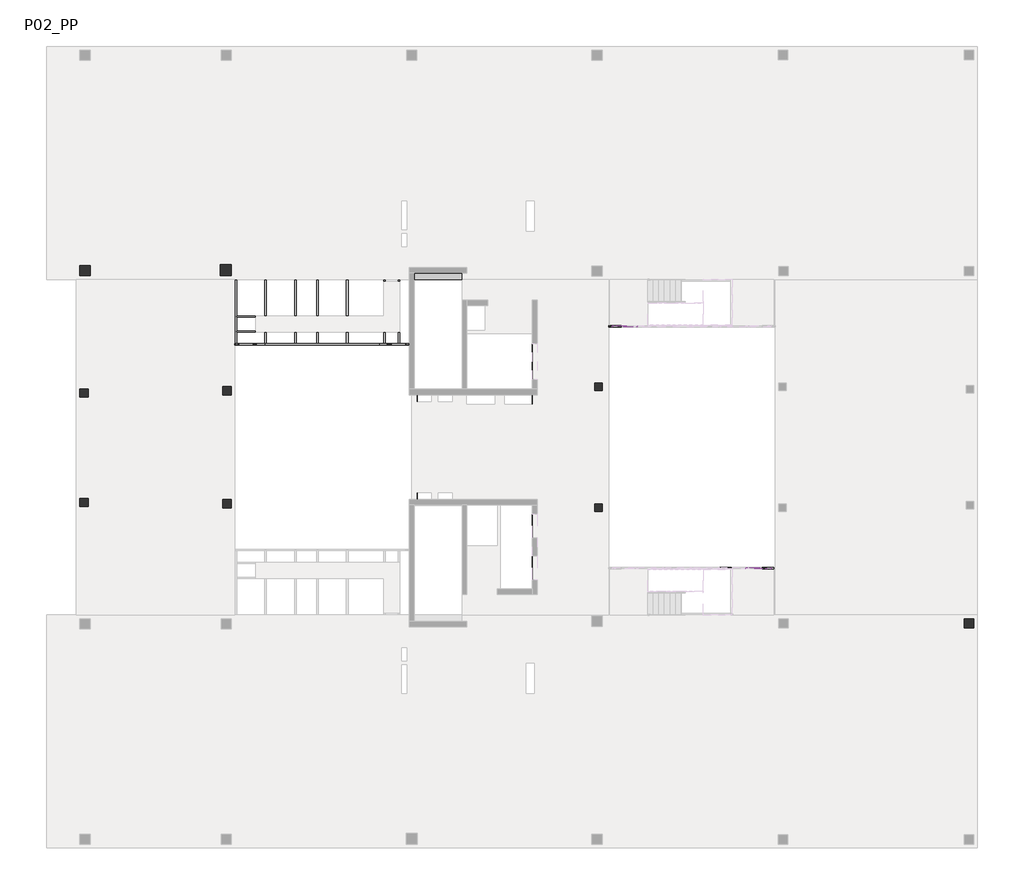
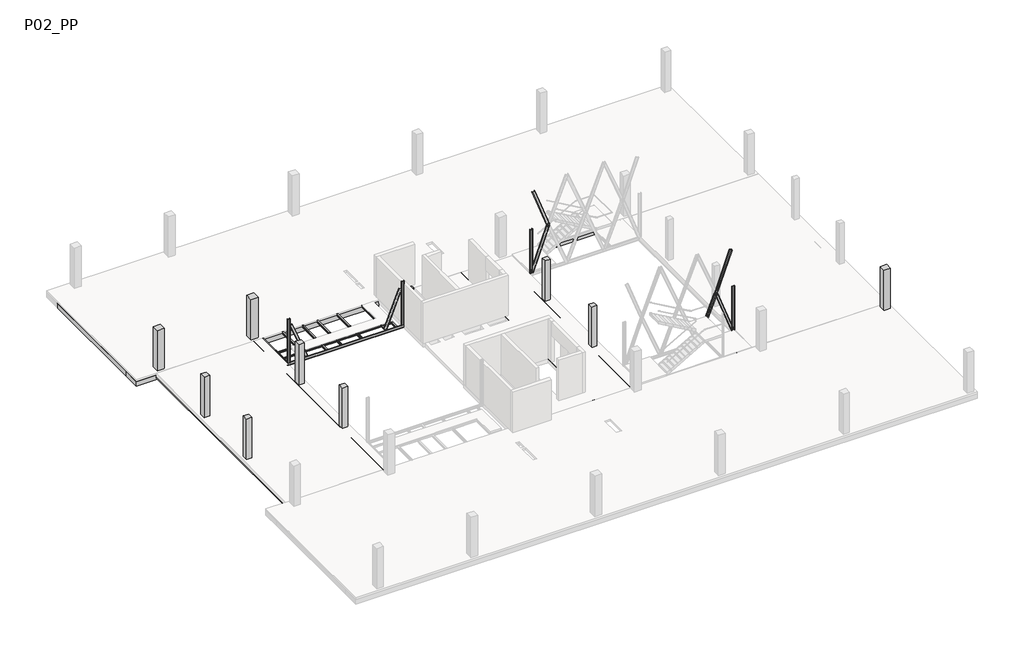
# One storey, part 4 of 7: 37 beams, 13 columns.
"""IFC4 building model written with IfcOpenShell, lengths in millimetres."""

from ifc_helpers import new_model, si_unit, point, frame, frame_2d, origin, place, context, project, spatial, polyline, circle_curve, ellipse_curve, trimmed, segment, composite_curve, outline, extrude, faceted_brep, transform, mapped, element, save
from ifc_brep_helpers import plane_surface, cylinder_surface, revolved_surface, advanced_brep
from components import ub_universal_beams_ipe_160x82_a4b44378, ub_universal_beams_ipe_160x82_3ea767f5, ub_universal_beams_ipe_200x100_3e5072df, ub_universal_beams_ipe_200x100_6cde27da, upn120x55_8ca40f5d, upn120x55_f8c29ef0, upn120x55_6f2391d9, upn120x55_f3862d68, upn120x55_dbb17e30, upn200x75_1f64faac, upn200x75_e6c17937, upn200x75_ab35ba71, upn200x75_e20365c8, upn_200x75_f929c6c0

model = new_model("IFC4")

# Units and contexts
model_context = context("Model", 3, world=origin())
ifc_project = project(units=[si_unit("LENGTHUNIT", "METRE", prefix="MILLI")], contexts=[model_context])

# Site, building, storey
site = spatial("IfcSite", under=ifc_project)
building = spatial("IfcBuilding", under=site)
storey = spatial("IfcBuildingStorey", under=building, Name="P02_PP", Elevation=14910.0)

# Beams
placement = place(None, origin())
element("IfcBeam", 1, ObjectType="M_Concrete-Rectangular Beam : 1500 x 550mm", at=placement, inside=storey, context=model_context, shape_type="Brep", body=[
    faceted_brep([(-13390.3216429, 13539.4134441, 14910.0), (-10790.2146087, 13539.4134441, 14910.0), (-10790.2146087, 13864.8960677, 14910.0), (-13390.3216429, 13864.8960677, 14910.0), (15458.7687297, 15039.4134441, 14360.0), (14183.7291255, 15039.4134441, 14360.0), (13783.7291255, 15039.4134441, 14360.0), (12517.0624618, 15039.4134441, 14360.0), (12117.0624618, 15039.4134441, 14360.0), (10850.3957976, 15039.4134441, 14360.0), (10450.3957976, 15039.4134441, 14360.0), (9183.7291339, 15039.4134441, 14360.0), (8783.7291339, 15039.4134441, 14360.0), (7517.0624701, 15039.4134441, 14360.0), (7117.0624701, 15039.4134441, 14360.0), (5850.3958055, 15039.4134441, 14360.0), (5450.3958055, 15039.4134441, 14360.0), (4183.7291418, 15039.4134441, 14360.0), (3783.7291418, 15039.4134441, 14360.0), (2517.0624776, 15039.4134441, 14360.0), (2117.0624776, 15039.4134441, 14360.0), (850.3958139, 15039.4134441, 14360.0), (450.3958139, 15039.4134441, 14360.0), (-816.2708502, 15039.4134441, 14360.0), (-1216.2708502, 15039.4134441, 14360.0), (-2482.9375136, 15039.4134441, 14360.0), (-2882.9375136, 15039.4134441, 14360.0), (-4149.6041777, 15039.4134441, 14360.0), (-4549.6041777, 15039.4134441, 14360.0), (-5816.2708415, 15039.4134441, 14360.0), (-6216.2708415, 15039.4134441, 14360.0), (-7482.9375051, 15039.4134441, 14360.0), (-7882.9375051, 15039.4134441, 14360.0), (-9149.6041702, 15039.4134441, 14360.0), (-9549.6041702, 15039.4134441, 14360.0), (-10816.2708336, 15039.4134441, 14360.0), (-11216.2708336, 15039.4134441, 14360.0), (-12482.9374977, 15039.4134441, 14360.0), (-12882.9374977, 15039.4134441, 14360.0), (-14149.604161, 15039.4134441, 14360.0), (-14549.604161, 15039.4134441, 14360.0), (-15816.2708252, 15039.4134441, 14360.0), (-16216.2708252, 15039.4134441, 14360.0), (-17482.9374898, 15039.4134441, 14360.0), (-17882.9374898, 15039.4134441, 14360.0), (-19149.6041539, 15039.4134441, 14360.0), (-19549.6041539, 15039.4134441, 14360.0), (-20816.2708168, 15039.4134441, 14360.0), (-21216.2708168, 15039.4134441, 14360.0), (-22482.9374805, 15039.4134441, 14360.0), (-22882.9374805, 15039.4134441, 14360.0), (-24149.6041453, 15039.4134441, 14360.0), (-24549.6041453, 15039.4134441, 14360.0), (-25816.2708089, 15039.4134441, 14360.0), (-26216.2708089, 15039.4134441, 14360.0), (-27482.9374731, 15039.4134441, 14360.0), (-27882.9374731, 15039.4134441, 14360.0), (-29149.6041367, 15039.4134441, 14360.0), (-29549.6041367, 15039.4134441, 14360.0), (-30816.2708024, 15039.4134441, 14360.0), (-31216.2708024, 15039.4134441, 14360.0), (-32490.2931069, 15039.4134441, 14360.0), (-33190.2931069, 15039.4134441, 14360.0), (-33190.2931069, 15039.4134441, 14760.0), (-32490.2931069, 15039.4134441, 14760.0), (-31216.2708024, 15039.4134441, 14760.0), (-30816.2708024, 15039.4134441, 14760.0), (-29549.6041367, 15039.4134441, 14760.0), (-29149.6041367, 15039.4134441, 14760.0), (-27882.9374731, 15039.4134441, 14760.0), (-27482.9374731, 15039.4134441, 14760.0), (-26216.2708089, 15039.4134441, 14760.0), (-25816.2708089, 15039.4134441, 14760.0), (-24549.6041453, 15039.4134441, 14760.0), (-24149.6041453, 15039.4134441, 14760.0), (-22882.9374805, 15039.4134441, 14760.0), (-22482.9374805, 15039.4134441, 14760.0), (-21216.2708168, 15039.4134441, 14760.0), (-20816.2708168, 15039.4134441, 14760.0), (-19549.6041539, 15039.4134441, 14760.0), (-19149.6041539, 15039.4134441, 14760.0), (-17882.9374898, 15039.4134441, 14760.0), (-17482.9374898, 15039.4134441, 14760.0), (-16216.2708252, 15039.4134441, 14760.0), (-15816.2708252, 15039.4134441, 14760.0), (-14549.604161, 15039.4134441, 14760.0), (-14149.604161, 15039.4134441, 14760.0), (-12882.9374977, 15039.4134441, 14760.0), (-12482.9374977, 15039.4134441, 14760.0), (-11216.2708336, 15039.4134441, 14760.0), (-10816.2708336, 15039.4134441, 14760.0), (-9549.6041702, 15039.4134441, 14760.0), (-9149.6041702, 15039.4134441, 14760.0), (-7882.9375051, 15039.4134441, 14760.0), (-7482.9375051, 15039.4134441, 14760.0), (-6216.2708415, 15039.4134441, 14760.0), (-5816.2708415, 15039.4134441, 14760.0), (-4549.6041777, 15039.4134441, 14760.0), (-4149.6041777, 15039.4134441, 14760.0), (-2882.9375136, 15039.4134441, 14760.0), (-2482.9375136, 15039.4134441, 14760.0), (-1216.2708502, 15039.4134441, 14760.0), (-816.2708502, 15039.4134441, 14760.0), (450.3958139, 15039.4134441, 14760.0), (850.3958139, 15039.4134441, 14760.0), (2117.0624776, 15039.4134441, 14760.0), (2517.0624776, 15039.4134441, 14760.0), (3783.7291418, 15039.4134441, 14760.0), (4183.7291418, 15039.4134441, 14760.0), (5450.3958055, 15039.4134441, 14760.0), (5850.3958055, 15039.4134441, 14760.0), (7117.0624701, 15039.4134441, 14760.0), (7517.0624701, 15039.4134441, 14760.0), (8783.7291339, 15039.4134441, 14760.0), (9183.7291339, 15039.4134441, 14760.0), (10450.3957976, 15039.4134441, 14760.0), (10850.3957976, 15039.4134441, 14760.0), (12117.0624618, 15039.4134441, 14760.0), (12517.0624618, 15039.4134441, 14760.0), (13783.7291255, 15039.4134441, 14760.0), (14183.7291255, 15039.4134441, 14760.0), (15458.7687297, 15039.4134441, 14760.0), (-33190.2931069, 13539.4134441, 14360.0), (15458.7687297, 13539.4134441, 14360.0), (-13390.3216429, 13539.4134441, 14360.0), (-13390.3216429, 13864.8960687, 14360.0), (-10540.3248355, 13864.8960687, 14360.0), (-10540.3248355, 14164.8960687, 14360.0), (-13640.3216429, 14164.8960687, 14360.0), (-13640.3216429, 13539.4134441, 14360.0), (-3266.636903, 13689.412495, 14360.0), (-3266.6369039, 14289.412495, 14360.0), (-3866.6369039, 14289.4124941, 14360.0), (-3866.636903, 13689.4124941, 14360.0), (-23241.1868618, 13739.4134411, 14360.0), (-23241.1868603, 14389.4134411, 14360.0), (-23891.1868603, 14389.4134425, 14360.0), (-23891.1868618, 13739.4134425, 14360.0), (-30791.2282852, 13739.4134357, 14360.0), (-30791.2282819, 14339.4134357, 14360.0), (-31391.2282819, 14339.413439, 14360.0), (-31391.2282852, 13739.413439, 14360.0), (6809.6968905, 13739.877527, 14360.0), (6809.6968927, 14289.877527, 14360.0), (6259.6968927, 14289.8775292, 14360.0), (6259.6968905, 13739.8775292, 14360.0), (-13640.3216429, 13539.4134441, 14610.0), (-13390.3216429, 13539.4134441, 14610.0), (15458.7687297, 13539.4134441, 14760.0), (-10790.2146087, 13539.4134441, 14760.0), (-13390.3216429, 13539.4134441, 14760.0), (-33190.2931069, 13539.4134441, 14760.0), (-3266.636903, 13689.412495, 14610.0), (-3266.6369039, 14289.412495, 14610.0), (-3866.636903, 13689.4124941, 14610.0), (-3866.6369039, 14289.4124941, 14610.0), (-23241.1868618, 13739.4134411, 14610.0), (-23241.1868603, 14389.4134411, 14610.0), (-23891.1868618, 13739.4134425, 14610.0), (-23891.1868603, 14389.4134425, 14610.0), (-30791.2282852, 13739.4134357, 14610.0), (-30791.2282819, 14339.4134357, 14610.0), (-31391.2282852, 13739.413439, 14610.0), (-31391.2282819, 14339.413439, 14610.0), (6809.6968905, 13739.877527, 14610.0), (6809.6968927, 14289.877527, 14610.0), (6259.6968905, 13739.8775292, 14610.0), (6259.6968927, 14289.8775292, 14610.0), (-10540.3248355, 14164.8960687, 14610.0), (-13640.3216429, 14164.8960687, 14610.0), (-10540.3248355, 13864.8960687, 14610.0), (-13390.3216429, 13864.8960687, 14610.0), (-13640.3216429, 13864.8960687, 14610.0), (-10790.2146087, 13864.8960677, 14760.0), (-13390.3216429, 13864.8960677, 14760.0)], [[[0, 1, 2, 3]], [[4, 5, 6, 7, 8, 9, 10, 11, 12, 13, 14, 15, 16, 17, 18, 19, 20, 21, 22, 23, 24, 25, 26, 27, 28, 29, 30, 31, 32, 33, 34, 35, 36, 37, 38, 39, 40, 41, 42, 43, 44, 45, 46, 47, 48, 49, 50, 51, 52, 53, 54, 55, 56, 57, 58, 59, 60, 61, 62, 63, 64, 65, 66, 67, 68, 69, 70, 71, 72, 73, 74, 75, 76, 77, 78, 79, 80, 81, 82, 83, 84, 85, 86, 87, 88, 89, 90, 91, 92, 93, 94, 95, 96, 97, 98, 99, 100, 101, 102, 103, 104, 105, 106, 107, 108, 109, 110, 111, 112, 113, 114, 115, 116, 117, 118, 119, 120, 121]], [[122, 62, 61, 60, 59, 58, 57, 56, 55, 54, 53, 52, 51, 50, 49, 48, 47, 46, 45, 44, 43, 42, 41, 40, 39, 38, 37, 36, 35, 34, 33, 32, 31, 30, 29, 28, 27, 26, 25, 24, 23, 22, 21, 20, 19, 18, 17, 16, 15, 14, 13, 12, 11, 10, 9, 8, 7, 6, 5, 4, 123, 124, 125, 126, 127, 128, 129], [130, 131, 132, 133], [134, 135, 136, 137], [138, 139, 140, 141], [142, 143, 144, 145]], [[122, 129, 146, 147, 124, 123, 148, 149, 1, 0, 150, 151]], [[62, 122, 151, 63]], [[123, 4, 121, 148]], [[152, 153, 131, 130]], [[154, 152, 130, 133]], [[155, 154, 133, 132]], [[153, 155, 132, 131]], [[153, 152, 154, 155]], [[156, 157, 135, 134]], [[158, 156, 134, 137]], [[159, 158, 137, 136]], [[157, 159, 136, 135]], [[157, 156, 158, 159]], [[160, 161, 139, 138]], [[162, 160, 138, 141]], [[163, 162, 141, 140]], [[161, 163, 140, 139]], [[161, 160, 162, 163]], [[164, 165, 143, 142]], [[166, 164, 142, 145]], [[167, 166, 145, 144]], [[165, 167, 144, 143]], [[165, 164, 166, 167]], [[168, 169, 128, 127]], [[170, 126, 125, 171]], [[169, 168, 170, 171, 147, 146, 172]], [[170, 168, 127, 126]], [[128, 169, 172, 146, 129]], [[147, 171, 125, 124]], [[173, 149, 148, 121, 120, 119, 118, 117, 116, 115, 114, 113, 112, 111, 110, 109, 108, 107, 106, 105, 104, 103, 102, 101, 100, 99, 98, 97, 96, 95, 94, 93, 92, 91, 90, 89, 88, 87, 86, 85, 84, 83, 82, 81, 80, 79, 78, 77, 76, 75, 74, 73, 72, 71, 70, 69, 68, 67, 66, 65, 64, 63, 151, 150, 174]], [[173, 174, 3, 2]], [[174, 150, 0, 3]], [[149, 173, 2, 1]]]),
])
element("IfcBeam", 2, ObjectType="M_Concrete-Rectangular Beam : 1500 x 550mm", at=placement, inside=storey, context=model_context, shape_type="Brep", body=[
    faceted_brep([(16958.7687297, -15610.5871866, 14360.0), (16958.7687297, -4560.5861501, 14360.0), (16958.7687297, -4560.5861501, 14760.0), (16958.7687297, -15610.5871866, 14760.0), (15458.7687297, -15610.5871866, 14360.0), (15458.7687297, -6060.5861501, 14360.0), (15458.7687297, -4560.5861501, 14360.0), (16757.9024713, -5310.6054329, 14360.0), (16757.902471, -4760.6054329, 14360.0), (16207.902471, -4760.6054333, 14360.0), (16207.9024713, -5310.6054333, 14360.0), (15458.7687297, -15610.5871866, 14760.0), (15458.7687297, -6060.5861501, 14760.0), (15458.7687297, -4560.5861501, 14760.0), (16757.9024713, -5310.6054329, 14610.0), (16757.902471, -4760.6054329, 14610.0), (16207.9024713, -5310.6054333, 14610.0), (16207.902471, -4760.6054333, 14610.0)], [[[0, 1, 2, 3]], [[0, 4, 5, 6, 1], [7, 8, 9, 10]], [[6, 5, 4, 11, 12, 13]], [[4, 0, 3, 11]], [[1, 6, 13, 2]], [[14, 15, 8, 7]], [[16, 14, 7, 10]], [[17, 16, 10, 9]], [[15, 17, 9, 8]], [[15, 14, 16, 17]], [[3, 2, 13, 12, 11]]]),
])
element("IfcBeam", 3, ObjectType="M_Concrete-Rectangular Beam : 300 x 300mm", at=placement, inside=storey, context=model_context, shape_type="SweptSolid", body=[
    extrude(outline(polyline([(-13515.3216429, 7614.8960673), (-13215.3216429, 7614.8960673), (-13215.3216429, 1364.8960692), (-13515.3216429, 1364.8960692), (-13515.3216429, 7614.8960673)])), frame((0.0, 0.0, 14610.0), z_axis=(0.0, 0.0, 1.0), x_axis=(1.0, 0.0, 0.0)), (0.0, 0.0, 1.0), 300.0),
])
element("IfcBeam", 4, ObjectType="M_Concrete-Rectangular Beam : 300 x 300mm", at=placement, inside=storey, context=model_context, shape_type="Brep", body=[
    faceted_brep([(-7015.3241677, -4560.5861501, 14910.0), (-6715.3241677, -4560.5861501, 14910.0), (-6715.3241677, 13539.4134441, 14910.0), (-7015.3241677, 13539.4134441, 14910.0), (-7015.3241677, 13539.4134441, 14760.0), (-7015.3241677, 13539.4134441, 14610.0), (-7015.3241677, -4560.5861501, 14610.0), (-7015.3241677, -4560.5861501, 14760.0), (-6715.3241677, -4560.5861501, 14610.0), (-6715.3241677, 13539.4134441, 14610.0), (-6715.3241677, -4560.5861501, 14760.0), (-6715.3241677, 13539.4134441, 14760.0)], [[[0, 1, 2, 3]], [[0, 3, 4, 5, 6, 7]], [[8, 6, 5, 9]], [[2, 1, 10, 8, 9, 11]], [[1, 0, 7, 6, 8, 10]], [[3, 2, 11, 9, 5, 4]]]),
])
element("IfcBeam", 5, ObjectType="M_Concrete-Rectangular Beam : 700 x 400mm", at=placement, inside=storey, context=model_context, shape_type="Brep", body=[
    faceted_brep([(-30891.2267916, 13539.4134441, 14910.0), (-31591.2267916, 13539.4134441, 14910.0), (-31591.2267916, -4560.5861501, 14910.0), (-30891.2267916, -4560.5861501, 14910.0), (-31591.2267916, 13539.4134441, 14760.0), (-31591.2267916, 13539.4134441, 14510.0), (-31591.2267916, -4560.5861501, 14510.0), (-31591.2267916, -4560.5861501, 14760.0), (-30891.2267916, 13539.4134441, 14510.0), (-30891.2267916, -4560.5861501, 14510.0), (-30941.2252638, 7189.2339907, 14510.0), (-30941.2252639, 7639.2339907, 14510.0), (-31391.2252639, 7639.2339906, 14510.0), (-31391.2252638, 7189.2339906, 14510.0), (-30941.2254349, 1289.2324928, 14510.0), (-30941.2254355, 1739.2324928, 14510.0), (-31391.2254355, 1739.2324921, 14510.0), (-31391.2254349, 1289.2324921, 14510.0), (-30891.2267916, -4560.5861501, 14760.0), (-30891.2267916, 13539.4134441, 14760.0), (-30941.2252638, 7189.2339907, 14610.0), (-30941.2252639, 7639.2339907, 14610.0), (-31391.2252638, 7189.2339906, 14610.0), (-31391.2252639, 7639.2339906, 14610.0), (-30941.2254349, 1289.2324928, 14610.0), (-30941.2254355, 1739.2324928, 14610.0), (-31391.2254349, 1289.2324921, 14610.0), (-31391.2254355, 1739.2324921, 14610.0)], [[[0, 1, 2, 3]], [[2, 1, 4, 5, 6, 7]], [[5, 8, 9, 6], [10, 11, 12, 13], [14, 15, 16, 17]], [[0, 3, 18, 9, 8, 19]], [[1, 0, 19, 8, 5, 4]], [[3, 2, 7, 6, 9, 18]], [[20, 21, 11, 10]], [[22, 20, 10, 13]], [[23, 22, 13, 12]], [[21, 23, 12, 11]], [[21, 20, 22, 23]], [[24, 25, 15, 14]], [[26, 24, 14, 17]], [[27, 26, 17, 16]], [[25, 27, 16, 15]], [[25, 24, 26, 27]]]),
])
element("IfcBeam", 6, ObjectType="M_Concrete-Rectangular Beam : 700 x 400mm", at=placement, inside=storey, context=model_context, shape_type="Brep", body=[
    faceted_brep([(-23041.1819308, 13539.4134441, 14910.0), (-23741.1819308, 13539.4134441, 14910.0), (-23741.1819308, -4560.5861501, 14910.0), (-23041.1819308, -4560.5861501, 14910.0), (-23741.1819308, 13539.4134441, 14760.0), (-23741.1819308, 13539.4134441, 14510.0), (-23741.1819308, -4560.5861501, 14510.0), (-23741.1819308, -4560.5861501, 14760.0), (-23041.1819308, 13539.4134441, 14510.0), (-23041.1819308, -4560.5861501, 14510.0), (-23241.1868518, 1214.413637, 14510.0), (-23241.1868521, 1664.413637, 14510.0), (-23691.1868521, 1664.4136367, 14510.0), (-23691.1868518, 1214.4136367, 14510.0), (-23241.1868576, 7314.4136309, 14510.0), (-23241.1868571, 7764.4136309, 14510.0), (-23691.1868571, 7764.4136315, 14510.0), (-23691.1868576, 7314.4136315, 14510.0), (-23041.1819308, -4560.5861501, 14760.0), (-23041.1819308, 13539.4134441, 14760.0), (-23241.1868518, 1214.413637, 14610.0), (-23241.1868521, 1664.413637, 14610.0), (-23691.1868518, 1214.4136367, 14610.0), (-23691.1868521, 1664.4136367, 14610.0), (-23241.1868576, 7314.4136309, 14610.0), (-23241.1868571, 7764.4136309, 14610.0), (-23691.1868576, 7314.4136315, 14610.0), (-23691.1868571, 7764.4136315, 14610.0)], [[[0, 1, 2, 3]], [[2, 1, 4, 5, 6, 7]], [[5, 8, 9, 6], [10, 11, 12, 13], [14, 15, 16, 17]], [[0, 3, 18, 9, 8, 19]], [[1, 0, 19, 8, 5, 4]], [[3, 2, 7, 6, 9, 18]], [[20, 21, 11, 10]], [[22, 20, 10, 13]], [[23, 22, 13, 12]], [[21, 23, 12, 11]], [[21, 20, 22, 23]], [[24, 25, 15, 14]], [[26, 24, 14, 17]], [[27, 26, 17, 16]], [[25, 27, 16, 15]], [[25, 24, 26, 27]]]),
])
element("IfcBeam", 7, ObjectType="M_Concrete-Rectangular Beam : 700 x 550mm", at=placement, inside=storey, context=model_context, shape_type="SweptSolid", body=[
    extrude(outline(polyline([(-33190.2931069, 24589.4144807), (-32490.2931069, 24589.4144807), (-32490.2931069, 15039.4134441), (-33190.2931069, 15039.4134441), (-33190.2931069, 24589.4144807)])), frame((0.0, 0.0, 14360.0), z_axis=(0.0, 0.0, 1.0), x_axis=(1.0, 0.0, 0.0)), (0.0, 0.0, 1.0), 400.0),
])
element("IfcBeam", 8, ObjectType="M_Concrete-Rectangular Beam : 850 x 300mm", at=placement, inside=storey, context=model_context, shape_type="Brep", body=[
    faceted_brep([(-2913.6343046, 13539.4134441, 14910.0), (-3763.6343046, 13539.4134441, 14910.0), (-3763.6343046, -4560.5861501, 14910.0), (-2913.6343046, -4560.5861501, 14910.0), (-3763.6343046, 13539.4134441, 14760.0), (-3763.6343046, 13539.4134441, 14610.0), (-3763.6343046, -4560.5861501, 14610.0), (-3763.6343046, -4560.5861501, 14760.0), (-2913.6343046, 13539.4134441, 14610.0), (-2913.6343046, -4560.5861501, 14610.0), (-2913.6343046, -4560.5861501, 14760.0), (-2913.6343046, 13539.4134441, 14760.0)], [[[0, 1, 2, 3]], [[2, 1, 4, 5, 6, 7]], [[5, 8, 9, 6]], [[0, 3, 10, 9, 8, 11]], [[1, 0, 11, 8, 5, 4]], [[3, 2, 7, 6, 9, 10]]]),
])
ub_universal_beams_ipe_160x82_shape = ub_universal_beams_ipe_160x82_a4b44378(model_context)
element("IfcBeam", 9, ObjectType="UB-Universal Beams : IPE 160x82", at=placement, inside=storey, context=model_context, shape_type="MappedRepresentation", body=[
    mapped(ub_universal_beams_ipe_160x82_shape, transform((-14190.4459331, 12171.9464504, 14830.0), x_axis=(0.0, -1.0, 0.0), y_axis=(1.0, 0.0, 0.0), z_axis=(0.0, 0.0, 1.0))),
])
element("IfcBeam", 10, ObjectType="UB-Universal Beams : IPE 160x82", at=placement, inside=storey, context=model_context, shape_type="MappedRepresentation", body=[
    mapped(ub_universal_beams_ipe_160x82_shape, transform((-14990.4459326, 12171.9464378, 14830.0), x_axis=(0.0, -1.0, 0.0), y_axis=(1.0, 0.0, 0.0), z_axis=(0.0, 0.0, 1.0))),
])
element("IfcBeam", 11, ObjectType="UB-Universal Beams : IPE 160x82", at=placement, inside=storey, context=model_context, shape_type="MappedRepresentation", body=[
    mapped(ub_universal_beams_ipe_160x82_shape, transform((-16990.4459316, 12171.9464061, 14830.0), x_axis=(0.0, -1.0, 0.0), y_axis=(1.0, 0.0, 0.0), z_axis=(0.0, 0.0, 1.0))),
])
element("IfcBeam", 12, ObjectType="UB-Universal Beams : IPE 160x82", at=placement, inside=storey, context=model_context, shape_type="MappedRepresentation", body=[
    mapped(ub_universal_beams_ipe_160x82_shape, transform((-18590.4459308, 12171.9463807, 14830.0), x_axis=(0.0, -1.0, 0.0), y_axis=(1.0, 0.0, 0.0), z_axis=(0.0, 0.0, 1.0))),
])
element("IfcBeam", 13, ObjectType="UB-Universal Beams : IPE 160x82", at=placement, inside=storey, context=model_context, shape_type="MappedRepresentation", body=[
    mapped(ub_universal_beams_ipe_160x82_shape, transform((-19790.4459314, 12171.9463617, 14830.0), x_axis=(0.0, -1.0, 0.0), y_axis=(1.0, 0.0, 0.0), z_axis=(0.0, 0.0, 1.0))),
])
element("IfcBeam", 14, ObjectType="UB-Universal Beams : IPE 160x82", at=placement, inside=storey, context=model_context, shape_type="MappedRepresentation", body=[
    mapped(ub_universal_beams_ipe_160x82_shape, transform((-21390.4459306, 12171.9463363, 14830.0), x_axis=(0.0, -1.0, 0.0), y_axis=(1.0, 0.0, 0.0), z_axis=(0.0, 0.0, 1.0))),
])
ub_universal_beams_ipe_160x82_2_shape = ub_universal_beams_ipe_160x82_3ea767f5(model_context)
element("IfcBeam", 15, ObjectType="UB-Universal Beams : IPE 160x82", at=placement, inside=storey, context=model_context, shape_type="MappedRepresentation", body=[
    mapped(ub_universal_beams_ipe_160x82_2_shape, transform((-22991.1860553, 12171.9463109, 14830.0), x_axis=(0.0, -1.0, 0.0), y_axis=(1.0, 0.0, 0.0), z_axis=(0.0, 0.0, 1.0))),
])
ub_universal_beams_ipe_200x100_shape = ub_universal_beams_ipe_200x100_3e5072df(model_context)
element("IfcBeam", 16, ObjectType="UB-Universal Beams : IPE 200x100", at=placement, inside=storey, context=model_context, shape_type="MappedRepresentation", body=[
    mapped(ub_universal_beams_ipe_200x100_shape, transform((5938.4982342, -3692.7089735, 14810.0), x_axis=(0.0, 1.0, 0.0), y_axis=(-1.0, 0.0, 0.0), z_axis=(0.0, 0.0, 1.0))),
])
ub_universal_beams_ipe_200x100_2_shape = ub_universal_beams_ipe_200x100_6cde27da(model_context)
element("IfcBeam", 17, ObjectType="UB-Universal Beams : IPE 200x100", at=placement, inside=storey, context=model_context, shape_type="MappedRepresentation", body=[
    mapped(ub_universal_beams_ipe_200x100_2_shape, transform((4826.3953909, -3698.1725705, 14810.0), x_axis=(0.0, 1.0, 0.0), y_axis=(-1.0, 0.0, 0.0), z_axis=(0.0, 0.0, 1.0))),
])
upn120x55_shape = upn120x55_8ca40f5d(model_context)
element("IfcBeam", 18, ObjectType="M_MC Shapes : UPN120x55", at=placement, inside=storey, context=model_context, shape_type="MappedRepresentation", body=[
    mapped(upn120x55_shape, transform((-22165.4459321, 11551.9793105, 14850.0), x_axis=(0.9999999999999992, 4.0441290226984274e-08, 0.0), y_axis=(-4.0441290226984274e-08, 0.9999999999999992, 0.0), z_axis=(0.0, 0.0, 1.0))),
])
element("IfcBeam", 19, ObjectType="M_MC Shapes : UPN120x55", at=placement, inside=storey, context=model_context, shape_type="MappedRepresentation", body=[
    mapped(upn120x55_shape, transform((-22165.4459321, 10751.9793096, 14850.0), x_axis=(0.9999999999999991, 4.319865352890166e-08, 0.0), y_axis=(-4.319865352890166e-08, 0.9999999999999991, 0.0), z_axis=(0.0, 0.0, 1.0))),
])
upn120x55_2_shape = upn120x55_f8c29ef0(model_context)
element("IfcBeam", 20, ObjectType="M_MC Shapes : UPN120x55", at=placement, inside=storey, context=model_context, shape_type="MappedRepresentation", body=[
    mapped(upn120x55_2_shape, transform((-20590.445931, 10751.9793776, 14850.0), x_axis=(0.9999999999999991, 4.319865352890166e-08, 0.0), y_axis=(-4.319865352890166e-08, 0.9999999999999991, 0.0), z_axis=(0.0, 0.0, 1.0))),
])
element("IfcBeam", 21, ObjectType="M_MC Shapes : UPN120x55", at=placement, inside=storey, context=model_context, shape_type="MappedRepresentation", body=[
    mapped(upn120x55_2_shape, transform((-17790.4459312, 10751.9794985, 14850.0), x_axis=(0.9999999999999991, 4.319865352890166e-08, 0.0), y_axis=(-4.319865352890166e-08, 0.9999999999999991, 0.0), z_axis=(0.0, 0.0, 1.0))),
])
element("IfcBeam", 22, ObjectType="M_MC Shapes : UPN120x55", at=placement, inside=storey, context=model_context, shape_type="MappedRepresentation", body=[
    mapped(upn120x55_2_shape, transform((-20590.445931, 11551.9793742, 14850.0), x_axis=(0.9999999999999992, 4.0441290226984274e-08, 0.0), y_axis=(-4.0441290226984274e-08, 0.9999999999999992, 0.0), z_axis=(0.0, 0.0, 1.0))),
])
element("IfcBeam", 23, ObjectType="M_MC Shapes : UPN120x55", at=placement, inside=storey, context=model_context, shape_type="MappedRepresentation", body=[
    mapped(upn120x55_2_shape, transform((-17790.4459312, 11551.9794874, 14850.0), x_axis=(0.9999999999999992, 4.0441290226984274e-08, 0.0), y_axis=(-4.0441290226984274e-08, 0.9999999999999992, 0.0), z_axis=(0.0, 0.0, 1.0))),
])
upn120x55_3_shape = upn120x55_6f2391d9(model_context)
element("IfcBeam", 24, ObjectType="M_MC Shapes : UPN120x55", at=placement, inside=storey, context=model_context, shape_type="MappedRepresentation", body=[
    mapped(upn120x55_3_shape, transform((-19190.4459311, 10751.9794381, 14850.0), x_axis=(0.9999999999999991, 4.319865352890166e-08, 0.0), y_axis=(-4.319865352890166e-08, 0.9999999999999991, 0.0), z_axis=(0.0, 0.0, 1.0))),
])
element("IfcBeam", 25, ObjectType="M_MC Shapes : UPN120x55", at=placement, inside=storey, context=model_context, shape_type="MappedRepresentation", body=[
    mapped(upn120x55_3_shape, transform((-19190.4459311, 11551.9794308, 14850.0), x_axis=(0.9999999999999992, 4.0441290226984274e-08, 0.0), y_axis=(-4.0441290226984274e-08, 0.9999999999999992, 0.0), z_axis=(0.0, 0.0, 1.0))),
])
upn120x55_4_shape = upn120x55_f3862d68(model_context)
element("IfcBeam", 26, ObjectType="M_MC Shapes : UPN120x55", at=placement, inside=storey, context=model_context, shape_type="MappedRepresentation", body=[
    mapped(upn120x55_4_shape, transform((-15990.4459321, 10751.9795763, 14850.0), x_axis=(0.9999999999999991, 4.319865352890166e-08, 0.0), y_axis=(-4.319865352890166e-08, 0.9999999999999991, 0.0), z_axis=(0.0, 0.0, 1.0))),
])
element("IfcBeam", 27, ObjectType="M_MC Shapes : UPN120x55", at=placement, inside=storey, context=model_context, shape_type="MappedRepresentation", body=[
    mapped(upn120x55_4_shape, transform((-15990.4459321, 11551.9795602, 14850.0), x_axis=(0.9999999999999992, 4.0441290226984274e-08, 0.0), y_axis=(-4.0441290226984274e-08, 0.9999999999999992, 0.0), z_axis=(0.0, 0.0, 1.0))),
])
upn120x55_5_shape = upn120x55_dbb17e30(model_context)
element("IfcBeam", 28, ObjectType="M_MC Shapes : UPN120x55", at=placement, inside=storey, context=model_context, shape_type="MappedRepresentation", body=[
    mapped(upn120x55_5_shape, transform((-14590.4459328, 11551.9796168, 14850.0), x_axis=(0.9999999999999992, 4.0441290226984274e-08, 0.0), y_axis=(-4.0441290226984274e-08, 0.9999999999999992, 0.0), z_axis=(0.0, 0.0, 1.0))),
])
element("IfcBeam", 29, ObjectType="M_MC Shapes : UPN120x55", at=placement, inside=storey, context=model_context, shape_type="MappedRepresentation", body=[
    mapped(upn120x55_5_shape, transform((-14590.4459328, 10751.9796368, 14850.0), x_axis=(0.9999999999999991, 4.319865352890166e-08, 0.0), y_axis=(-4.319865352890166e-08, 0.9999999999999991, 0.0), z_axis=(0.0, 0.0, 1.0))),
])
element("IfcBeam", 30, ObjectType="M_MC Shapes : UPN200x75", at=placement, inside=storey, context=model_context, shape_type="AdvancedBrep", body=[
    advanced_brep(
    [(2978.7029741, -1999.8318911, 14847.17325), (3164.3983122, -1999.8318851, 14772.8951148), (3164.3983147, -2074.8318851, 14772.8951148), (3163.4933514, -2074.8318851, 14773.2571001), (3159.8757686, -2071.5312625, 14774.7041332), (3150.5061597, -2010.983131, 14778.4519759), (3143.2709942, -2004.3818858, 14781.3460421), (2999.8302924, -2004.3818905, 14838.7223227), (2992.5951273, -2010.9831362, 14841.6163889), (2983.2255223, -2071.5312683, 14845.3642316), (2979.6079398, -2074.8318911, 14846.8112647), (2978.7029765, -2074.8318911, 14847.17325), (4679.2402749, -1999.8318359, 18560.0000243), (4463.8336826, -1999.8318429, 18560.0000243), (4679.2402773, -2074.8318359, 18560.0000243), (4678.1905199, -2074.831836, 18560.0000243), (4673.9941239, -2071.5312134, 18560.0000243), (4663.1253779, -2010.9830819, 18560.0000243), (4654.7325859, -2004.3818367, 18560.0000243), (4488.3413719, -2004.3818421, 18560.0000243), (4479.9485803, -2010.9830879, 18560.0000243), (4469.0798382, -2071.53122, 18560.0000243), (4464.8834424, -2074.8318429, 18560.0000243), (4463.833685, -2074.8318429, 18560.0000243)],
    [
        (0, 1),
        (1, 2),
        (2, 3),
        (3, 4, circle_curve(frame((3163.4933513, -2070.8818851, 14773.2571001), z_axis=(-0.3713906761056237, -1.2056191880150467e-08, -0.9284766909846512), x_axis=(3.246229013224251e-08, -0.9999999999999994, 0.0)), 3.95)),
        (4, 5),
        (5, 6, circle_curve(frame((3143.2709944, -2012.2818858, 14781.3460421), z_axis=(0.3713906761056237, 1.2056191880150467e-08, 0.9284766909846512), x_axis=(3.246229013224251e-08, -0.9999999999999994, 0.0)), 7.9)),
        (6, 7),
        (7, 8, circle_curve(frame((2999.8302927, -2012.2818905, 14838.7223227), z_axis=(0.3713906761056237, 1.2056191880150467e-08, 0.9284766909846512), x_axis=(3.246229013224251e-08, -0.9999999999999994, 0.0)), 7.9)),
        (8, 9),
        (9, 10, circle_curve(frame((2979.6079396, -2070.8818911, 14846.8112647), z_axis=(-0.3713906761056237, -1.2056191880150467e-08, -0.9284766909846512), x_axis=(3.246229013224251e-08, -0.9999999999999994, 0.0)), 3.95)),
        (10, 11),
        (11, 0),
        (12, 1),
        (0, 13),
        (13, 12),
        (14, 2),
        (12, 14),
        (15, 3),
        (14, 15),
        (16, 4),
        (15, 16, ellipse_curve(frame((4678.1905198, -2070.881836, 18560.0000243), z_axis=(1.338109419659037e-10, -2.582863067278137e-10, -1.0), x_axis=(0.9999999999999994, 3.181657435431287e-08, 1.338109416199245e-10)), 4.2542802, 3.95)),
        (16, 17),
        (17, 5),
        (18, 6),
        (17, 18, ellipse_curve(frame((4654.7325861, -2012.2818367, 18560.0000243), z_axis=(-1.338109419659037e-10, 2.582863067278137e-10, 1.0), x_axis=(-0.9999999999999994, -3.181657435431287e-08, -1.338109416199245e-10)), 8.5085604, 7.9)),
        (19, 7),
        (18, 19),
        (20, 8),
        (19, 20, ellipse_curve(frame((4488.3413722, -2012.2818421, 18560.0000243), z_axis=(-1.338109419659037e-10, 2.582863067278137e-10, 1.0), x_axis=(-0.9999999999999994, -3.181657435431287e-08, -1.338109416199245e-10)), 8.5085604, 7.9)),
        (20, 21),
        (21, 9),
        (22, 10),
        (21, 22, ellipse_curve(frame((4464.8834423, -2070.8818429, 18560.0000243), z_axis=(1.338109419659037e-10, -2.582863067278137e-10, -1.0), x_axis=(0.9999999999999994, 3.181657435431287e-08, 1.338109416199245e-10)), 4.2542802, 3.95)),
        (23, 11),
        (22, 23),
        (23, 13),
    ],
    [
        plane_surface(frame((3071.5506435, -2010.7318881, 14810.0341824), z_axis=(-0.37139067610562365, -1.2056191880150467e-08, -0.9284766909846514), x_axis=(-0.9284766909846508, -3.014047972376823e-08, 0.3713906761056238))),
        plane_surface(frame((4463.8200097, -1999.8318429, 18559.9658419), z_axis=(-3.246229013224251e-08, 0.9999999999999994, 0.0), x_axis=(-0.3713906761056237, -1.2056191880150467e-08, -0.9284766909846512))),
        plane_surface(frame((4649.5153479, -1999.8318369, 18485.6877067), z_axis=(0.9284766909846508, 3.0140479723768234e-08, -0.37139067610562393), x_axis=(-0.3713906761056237, -1.2056191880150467e-08, -0.9284766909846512))),
        plane_surface(frame((4649.5153503, -2074.8318369, 18485.6877067), z_axis=(3.246229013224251e-08, -0.9999999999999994, 0.0), x_axis=(-0.3713906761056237, -1.2056191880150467e-08, -0.9284766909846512))),
        cylinder_surface(frame((4648.6103869, -2070.8818369, 18486.049692), z_axis=(0.3713906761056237, 1.2056191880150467e-08, 0.9284766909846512), x_axis=(3.246229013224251e-08, -0.9999999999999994, 0.0)), 3.95),
        plane_surface(frame((4642.1803837, -2053.3568371, 18488.621693), z_axis=(-0.9158437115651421, -0.16439933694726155, 0.3663374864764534), x_axis=(-0.3713906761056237, -1.2056191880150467e-08, -0.9284766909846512))),
        revolved_surface(polyline([(3143.2709946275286, -2020.1818858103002, 14781.346042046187), (4655.906180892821, -2020.1818367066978, 18562.934010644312)]), (4628.38803, -2012.2818376, 18494.138634), (-0.3713906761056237, -1.2056191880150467e-08, -0.9284766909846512)),
        plane_surface(frame((4628.3880298, -2004.3818376, 18494.138634), z_axis=(3.246229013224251e-08, -0.9999999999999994, 0.0), x_axis=(-0.3713906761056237, -1.2056191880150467e-08, -0.9284766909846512))),
        revolved_surface(polyline([(2999.830292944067, -2020.1818904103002, 14838.722322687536), (4489.514966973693, -2020.181842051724, 18562.934010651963)]), (4484.9473283, -2012.2818422, 18551.5149146), (-0.3713906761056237, -1.2056191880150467e-08, -0.9284766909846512)),
        plane_surface(frame((4471.1549773, -2053.3568427, 18557.0318556), z_axis=(0.9158437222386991, -0.1643992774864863, -0.3663374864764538), x_axis=(-0.3713906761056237, -1.2056191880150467e-08, -0.9284766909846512))),
        cylinder_surface(frame((4464.7249752, -2070.8818429, 18559.6038566), z_axis=(0.3713906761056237, 1.2056191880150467e-08, 0.9284766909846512), x_axis=(3.246229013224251e-08, -0.9999999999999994, 0.0)), 3.95),
        plane_surface(frame((4464.7249754, -2074.8318429, 18559.6038566), z_axis=(3.246229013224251e-08, -0.9999999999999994, 0.0), x_axis=(-0.3713906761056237, -1.2056191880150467e-08, -0.9284766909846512))),
        plane_surface(frame((4463.8200121, -2074.8318429, 18559.9658419), z_axis=(-0.9284766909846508, -3.0140479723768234e-08, 0.37139067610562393), x_axis=(-0.3713906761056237, -1.2056191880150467e-08, -0.9284766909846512))),
        plane_surface(frame((4679.2402753, -2010.7318361, 18560.0000243), z_axis=(-1.338109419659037e-10, 2.582863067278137e-10, 1.0), x_axis=(-1.0, 0.0, -1.338109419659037e-10))),
    ],
    [
        (0, [[1, 2, 3, 4, 5, 6, 7, 8, 9, 10, 11, 12]]),
        (1, [[13, -1, 14, 15]]),
        (2, [[16, -2, -13, 17]]),
        (3, [[18, -3, -16, 19]]),
        (4, [[20, -4, -18, 21]]),
        (5, [[22, 23, -5, -20]]),
        (6, [[24, -6, -23, 25]]),
        (7, [[26, -7, -24, 27]]),
        (8, [[28, -8, -26, 29]]),
        (9, [[30, 31, -9, -28]]),
        (10, [[32, -10, -31, 33]]),
        (11, [[34, -11, -32, 35]]),
        (12, [[-14, -12, -34, 36]]),
        (13, [[-36, -35, -33, -30, -29, -27, -25, -22, -21, -19, -17, -15]]),
    ],
),
])
element("IfcBeam", 31, ObjectType="M_MC Shapes : UPN200x75", at=placement, inside=storey, context=model_context, shape_type="SweptSolid", body=[
    extrude(outline(composite_curve([segment(polyline([(100.0, 10.9000001), (100.0, -64.0999999), (99.0253247, -64.1)]), True, "CONTINUOUS"), segment(trimmed(circle_curve(frame_2d((99.0253247, -60.15)), 3.95), [point((99.0253247, -64.1))], [point((95.1290689, -60.7993772))], False, "CARTESIAN"), True, "CONTINUOUS"), segment(polyline([(95.1290689, -60.7993772), (85.0376934, -0.2512454)]), True, "CONTINUOUS"), segment(trimmed(circle_curve(frame_2d((77.2451819, -1.55)), 7.9), [point((85.0376934, -0.2512454))], [point((77.2451819, 6.35))], True, "CARTESIAN"), True, "CONTINUOUS"), segment(polyline([(77.2451819, 6.35), (-77.2451819, 6.35)]), True, "CONTINUOUS"), segment(trimmed(circle_curve(frame_2d((-77.2451819, -1.55)), 7.9), [point((-77.2451819, 6.35))], [point((-85.0376935, -0.2512455))], True, "CARTESIAN"), True, "CONTINUOUS"), segment(polyline([(-85.0376935, -0.2512455), (-95.129069, -60.7993772)]), True, "CONTINUOUS"), segment(trimmed(circle_curve(frame_2d((-99.0253247, -60.15)), 3.95), [point((-95.129069, -60.7993772))], [point((-99.0253248, -64.1))], False, "CARTESIAN"), True, "CONTINUOUS"), segment(polyline([(-99.0253248, -64.1), (-100.0, -64.1), (-100.0, 10.9), (100.0, 10.9000001)]), True, "CONTINUOUS")], self_intersect=False)), frame((5903.8086384, -2010.731888, 14926.5316042), z_axis=(-0.34425464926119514, 1.2303665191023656e-08, 0.9388763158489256), x_axis=(0.9388763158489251, -3.355545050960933e-08, 0.34425464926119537)), (0.0, 0.0, 1.0), 3870.0),
])
element("IfcBeam", 32, ObjectType="M_MC Shapes : UPN200x75", at=placement, inside=storey, context=model_context, shape_type="SweptSolid", body=[
    extrude(outline(composite_curve([segment(polyline([(100.0, 10.9000001), (100.0, -64.0999999), (99.0253247, -64.1)]), True, "CONTINUOUS"), segment(trimmed(circle_curve(frame_2d((99.0253247, -60.15)), 3.95), [point((99.0253247, -64.1))], [point((95.1290689, -60.7993772))], False, "CARTESIAN"), True, "CONTINUOUS"), segment(polyline([(95.1290689, -60.7993772), (85.0376934, -0.2512454)]), True, "CONTINUOUS"), segment(trimmed(circle_curve(frame_2d((77.2451819, -1.55)), 7.9), [point((85.0376934, -0.2512454))], [point((77.2451819, 6.35))], True, "CARTESIAN"), True, "CONTINUOUS"), segment(polyline([(77.2451819, 6.35), (-77.2451819, 6.35)]), True, "CONTINUOUS"), segment(trimmed(circle_curve(frame_2d((-77.2451819, -1.55)), 7.9), [point((-77.2451819, 6.35))], [point((-85.0376935, -0.2512455))], True, "CARTESIAN"), True, "CONTINUOUS"), segment(polyline([(-85.0376935, -0.2512455), (-95.129069, -60.7993772)]), True, "CONTINUOUS"), segment(trimmed(circle_curve(frame_2d((-99.0253247, -60.1499999)), 3.95), [point((-95.129069, -60.7993772))], [point((-99.0253248, -64.0999999))], False, "CARTESIAN"), True, "CONTINUOUS"), segment(polyline([(-99.0253248, -64.0999999), (-100.0, -64.1), (-100.0, 10.9), (100.0, 10.9000001)]), True, "CONTINUOUS")], self_intersect=False)), frame((-2758.6121833, 10990.5239694, 14926.5316042), z_axis=(0.34425464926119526, -1.2303666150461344e-08, 0.9388763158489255), x_axis=(-0.938876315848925, 3.355545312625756e-08, 0.3442546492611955)), (0.0, 0.0, 1.0), 3870.0),
])
upn200x75_shape = upn200x75_1f64faac(model_context)
element("IfcBeam", 33, ObjectType="M_MC Shapes : UPN200x75", at=placement, inside=storey, context=model_context, shape_type="MappedRepresentation", body=[
    mapped(upn200x75_shape, transform((-22208.7675596, 10001.2791702, 16730.6012021), x_axis=(-0.3712989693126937, 1.179124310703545e-08, 0.9285133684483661), y_axis=(3.175673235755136e-08, 0.9999999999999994, 0.0), z_axis=(-0.9285133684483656, 2.9486550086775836e-08, -0.3712989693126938))),
])
upn200x75_2_shape = upn200x75_e6c17937(model_context)
element("IfcBeam", 34, ObjectType="M_MC Shapes : UPN200x75", at=placement, inside=storey, context=model_context, shape_type="MappedRepresentation", body=[
    mapped(upn200x75_2_shape, transform((-14469.7052054, 10001.2791702, 16733.85925), x_axis=(0.3712989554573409, 1.1791241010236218e-08, 0.9285133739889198), y_axis=(3.175673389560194e-08, -0.9999999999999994, 0.0), z_axis=(0.9285133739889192, 2.9486552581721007e-08, -0.371298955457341))),
])
upn200x75_3_shape = upn200x75_ab35ba71(model_context)
element("IfcBeam", 35, ObjectType="M_MC Shapes : UPN200x75", at=placement, inside=storey, context=model_context, shape_type="MappedRepresentation", body=[
    mapped(upn200x75_3_shape, transform((-18453.2517869, 10001.2793219, 14810.0), x_axis=(0.9999999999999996, 3.175670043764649e-08, 0.0), y_axis=(-3.175670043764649e-08, 0.9999999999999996, 0.0), z_axis=(0.0, 0.0, 1.0))),
])
upn200x75_4_shape = upn200x75_e20365c8(model_context)
element("IfcBeam", 36, ObjectType="M_MC Shapes : UPN200x75", at=placement, inside=storey, context=model_context, shape_type="MappedRepresentation", body=[
    mapped(upn200x75_4_shape, transform((5259.0369242, -2010.7318613, 20435.0), x_axis=(0.3442546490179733, -1.1576566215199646e-08, 0.9388763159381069), y_axis=(-3.362791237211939e-08, -0.9999999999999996, 0.0), z_axis=(0.9388763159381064, -3.157245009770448e-08, -0.34425464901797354))),
])
element("IfcBeam", 37, ObjectType="M_MC Shapes : UPN200x75", at=placement, inside=storey, context=model_context, shape_type="MappedRepresentation", body=[
    mapped(upn200x75_4_shape, transform((-2113.8404691, 10990.5239427, 20435.0), x_axis=(-0.3442546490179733, 1.1576567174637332e-08, 0.9388763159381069), y_axis=(3.362791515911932e-08, 0.9999999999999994, 0.0), z_axis=(-0.9388763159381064, 3.1572452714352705e-08, -0.3442546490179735))),
])

# Columns
element("IfcColumn", 38, ObjectType="Concrete-Rectangular-Column : Pilar_Rectangular-Formigo-400x400", at=placement, inside=storey, context=model_context, shape_type="SweptSolid", body=[
    extrude(outline(polyline([(-3266.6336932, 1439.6019873), (-3266.633693, 1039.6019873), (-3666.633693, 1039.6019871), (-3666.6336932, 1439.6019871), (-3266.6336932, 1439.6019873)])), frame((0.0, 0.0, 14910.0), z_axis=(0.0, 0.0, 1.0), x_axis=(1.0, 0.0, 0.0)), (0.0, 0.0, 1.0), 3450.0),
])
element("IfcColumn", 39, ObjectType="Concrete-Rectangular-Column : Pilar_Rectangular-Formigo-400x400", at=placement, inside=storey, context=model_context, shape_type="SweptSolid", body=[
    extrude(outline(polyline([(-3266.6337003, 7939.6019872), (-3266.6337, 7539.6019872), (-3666.6337, 7539.6019869), (-3666.6337003, 7939.6019869), (-3266.6337003, 7939.6019872)])), frame((0.0, 0.0, 14910.0), z_axis=(0.0, 0.0, 1.0), x_axis=(1.0, 0.0, 0.0)), (0.0, 0.0, 1.0), 3450.0),
])
element("IfcColumn", 40, ObjectType="Concrete-Rectangular-Column : Pilar_Rectangular-Formigo-450x450", at=placement, inside=storey, context=model_context, shape_type="Brep", body=[
    faceted_brep([(-23241.1868521, 1664.413637, 14910.0), (-23241.1868518, 1214.413637, 14910.0), (-23691.1868518, 1214.4136367, 14910.0), (-23691.1868521, 1664.4136367, 14910.0), (-23241.1868521, 1664.413637, 18360.0), (-23241.1868518, 1214.413637, 18360.0), (-23241.1868518, 1214.413637, 18260.0), (-23241.1868521, 1664.413637, 18260.0), (-23691.1868518, 1214.4136367, 18360.0), (-23691.1868518, 1214.4136367, 18260.0), (-23691.1868521, 1664.4136367, 18360.0), (-23691.1868521, 1664.4136367, 18260.0)], [[[0, 1, 2, 3]], [[4, 5, 6, 1, 0, 7]], [[5, 8, 9, 2, 1, 6]], [[8, 10, 11, 3, 2, 9]], [[10, 4, 7, 0, 3, 11]], [[4, 10, 8, 5]]]),
])
element("IfcColumn", 41, ObjectType="Concrete-Rectangular-Column : Pilar_Rectangular-Formigo-450x450", at=placement, inside=storey, context=model_context, shape_type="Brep", body=[
    faceted_brep([(-23241.1868571, 7764.4136309, 14910.0), (-23241.1868576, 7314.4136309, 14910.0), (-23691.1868576, 7314.4136315, 14910.0), (-23691.1868571, 7764.4136315, 14910.0), (-23241.1868571, 7764.4136309, 18360.0), (-23241.1868576, 7314.4136309, 18360.0), (-23241.1868576, 7314.4136309, 18260.0), (-23241.1868571, 7764.4136309, 18260.0), (-23691.1868576, 7314.4136315, 18360.0), (-23691.1868576, 7314.4136315, 18260.0), (-23691.1868571, 7764.4136315, 18360.0), (-23691.1868571, 7764.4136315, 18260.0)], [[[0, 1, 2, 3]], [[4, 5, 6, 1, 0, 7]], [[5, 8, 9, 2, 1, 6]], [[8, 10, 11, 3, 2, 9]], [[10, 4, 7, 0, 3, 11]], [[4, 10, 8, 5]]]),
])
element("IfcColumn", 42, ObjectType="Concrete-Rectangular-Column : Pilar_Rectangular-Formigo-450x450", at=placement, inside=storey, context=model_context, shape_type="Brep", body=[
    faceted_brep([(-30941.2254254, 1739.2324921, 14910.0), (-30941.2254254, 1289.2324921, 14910.0), (-31391.2254254, 1289.2324921, 14910.0), (-31391.2254254, 1739.2324921, 14910.0), (-30941.2254254, 1739.2324921, 18360.0), (-30941.2254254, 1289.2324921, 18360.0), (-30941.2254254, 1289.2324921, 18260.0), (-30941.2254254, 1739.2324921, 18260.0), (-31391.2254254, 1289.2324921, 18360.0), (-31391.2254254, 1289.2324921, 18260.0), (-31391.2254254, 1739.2324921, 18360.0), (-31391.2254254, 1739.2324921, 18260.0)], [[[0, 1, 2, 3]], [[4, 5, 6, 1, 0, 7]], [[5, 8, 9, 2, 1, 6]], [[8, 10, 11, 3, 2, 9]], [[10, 4, 7, 0, 3, 11]], [[4, 10, 8, 5]]]),
])
element("IfcColumn", 43, ObjectType="Concrete-Rectangular-Column : Pilar_Rectangular-Formigo-450x450", at=placement, inside=storey, context=model_context, shape_type="Brep", body=[
    faceted_brep([(-30941.2252527, 7639.2339908, 14910.0), (-30941.2252523, 7189.2339908, 14910.0), (-31391.2252523, 7189.2339905, 14910.0), (-31391.2252527, 7639.2339905, 14910.0), (-30941.2252527, 7639.2339908, 18360.0), (-30941.2252523, 7189.2339908, 18360.0), (-30941.2252523, 7189.2339908, 18260.0), (-30941.2252527, 7639.2339908, 18260.0), (-31391.2252523, 7189.2339905, 18360.0), (-31391.2252523, 7189.2339905, 18260.0), (-31391.2252527, 7639.2339905, 18360.0), (-31391.2252527, 7639.2339905, 18260.0)], [[[0, 1, 2, 3]], [[4, 5, 6, 1, 0, 7]], [[5, 8, 9, 2, 1, 6]], [[8, 10, 11, 3, 2, 9]], [[10, 4, 7, 0, 3, 11]], [[4, 10, 8, 5]]]),
])
element("IfcColumn", 44, ObjectType="Concrete-Rectangular-Column : Pilar_Rectangular-Formigo-550x550", at=placement, inside=storey, context=model_context, shape_type="Brep", body=[
    faceted_brep([(-30841.22508, 14289.413749, 14910.0), (-30841.2250811, 13739.413749, 14910.0), (-31391.2250811, 13739.4137502, 14910.0), (-31391.22508, 14289.4137502, 14910.0), (-30841.22508, 14289.413749, 18360.0), (-30841.2250811, 13739.413749, 18360.0), (-30841.2250811, 13739.413749, 18110.0), (-30841.22508, 14289.413749, 18110.0), (-31391.2250811, 13739.4137502, 18360.0), (-31391.2250811, 13739.4137502, 18110.0), (-31391.22508, 14289.4137502, 18360.0), (-31391.22508, 14289.4137502, 18110.0)], [[[0, 1, 2, 3]], [[4, 5, 6, 1, 0, 7]], [[5, 8, 9, 2, 1, 6]], [[8, 10, 11, 3, 2, 9]], [[10, 4, 7, 0, 3, 11]], [[4, 10, 8, 5]]]),
])
element("IfcColumn", 45, ObjectType="Concrete-Rectangular-Column : Pilar_Rectangular-Formigo-600x600", at=placement, inside=storey, context=model_context, shape_type="Brep", body=[
    faceted_brep([(-23241.1836934, 14339.413793, 14910.0), (-23241.1836939, 13739.413793, 14910.0), (-23841.1836939, 13739.4137935, 14910.0), (-23841.1836934, 14339.4137935, 14910.0), (-23241.1836934, 14339.413793, 18360.0), (-23241.1836939, 13739.413793, 18360.0), (-23241.1836939, 13739.413793, 18110.0), (-23241.1836934, 14339.413793, 18110.0), (-23841.1836939, 13739.4137935, 18360.0), (-23841.1836939, 13739.4137935, 18110.0), (-23841.1836934, 14339.4137935, 18360.0), (-23841.1836934, 14339.4137935, 18110.0)], [[[0, 1, 2, 3]], [[4, 5, 6, 1, 0, 7]], [[5, 8, 9, 2, 1, 6]], [[8, 10, 11, 3, 2, 9]], [[10, 4, 7, 0, 3, 11]], [[4, 10, 8, 5]]]),
])
element("IfcColumn", 46, ObjectType="Concrete-Rectangular-Column : Pilar_Rectangular-Formigo-500x500", at=placement, inside=storey, context=model_context, shape_type="Brep", body=[
    faceted_brep([(16758.7686345, -4760.6050919, 14910.0), (16758.7686348, -5260.6050919, 14910.0), (16258.7686348, -5260.6050922, 14910.0), (16258.7686345, -4760.6050922, 14910.0), (16758.7686345, -4760.6050919, 18360.0), (16758.7686348, -5260.6050919, 18360.0), (16758.7686348, -5260.6050919, 17960.0), (16758.7686348, -5260.6050919, 17860.0), (16758.7686345, -4760.6050919, 17860.0), (16758.7686345, -4760.6050919, 17960.0), (16258.7686348, -5260.6050922, 18360.0), (16258.7686348, -5260.6050922, 17960.0), (16258.7686345, -4760.6050922, 18360.0), (16258.7686345, -4760.6050922, 17960.0)], [[[0, 1, 2, 3]], [[4, 5, 6, 7, 1, 0, 8, 9]], [[5, 10, 11, 2, 1, 7, 6]], [[10, 12, 13, 3, 2, 11]], [[12, 4, 9, 8, 0, 3, 13]], [[4, 12, 10, 5]]]),
])
upn_200x75_shape = upn_200x75_f929c6c0(model_context)
element("IfcColumn", 47, ObjectType="M_MC Shapes-Column : UPN 200x75", at=placement, inside=storey, context=model_context, shape_type="MappedRepresentation", body=[
    mapped(upn_200x75_shape, transform((-13740.321643, 10016.7789198, 0.0), x_axis=(3.1229579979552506e-08, 0.9999999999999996, 0.0), y_axis=(-0.9999999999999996, 3.1229579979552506e-08, 0.0), z_axis=(0.0, 0.0, 1.0))),
])
element("IfcColumn", 48, ObjectType="M_MC Shapes-Column : UPN 200x75", at=placement, inside=storey, context=model_context, shape_type="MappedRepresentation", body=[
    mapped(upn_200x75_shape, transform((-22940.3175218, 10016.7789198, 0.0), x_axis=(3.1229579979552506e-08, 0.9999999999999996, 0.0), y_axis=(-0.9999999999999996, 3.1229579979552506e-08, 0.0), z_axis=(0.0, 0.0, 1.0))),
])
element("IfcColumn", 49, ObjectType="M_MC Shapes-Column : UPN 200x75", at=placement, inside=storey, context=model_context, shape_type="MappedRepresentation", body=[
    mapped(upn_200x75_shape, transform((5958.8308526, -2026.2316122, 0.0), x_axis=(-3.122957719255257e-08, -0.9999999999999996, 0.0), y_axis=(0.9999999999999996, -3.122957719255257e-08, 0.0), z_axis=(0.0, 0.0, 1.0))),
])
element("IfcColumn", 50, ObjectType="M_MC Shapes-Column : UPN 200x75", at=placement, inside=storey, context=model_context, shape_type="MappedRepresentation", body=[
    mapped(upn_200x75_shape, transform((-2813.6343975, 11006.0236936, 0.0), x_axis=(3.1229579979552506e-08, 0.9999999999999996, 0.0), y_axis=(-0.9999999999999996, 3.1229579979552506e-08, 0.0), z_axis=(0.0, 0.0, 1.0))),
])

save(model, "model.ifc")
